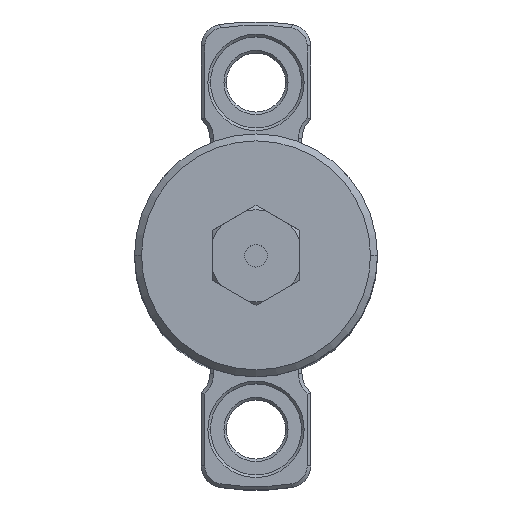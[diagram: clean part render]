
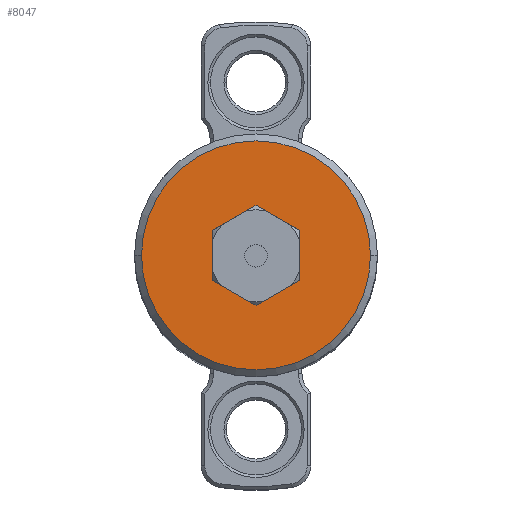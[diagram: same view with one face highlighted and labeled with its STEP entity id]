
A CAD part, top view. The second image highlights one B-rep face of the part: STEP entity #8047.
In plain terms, the highlighted planar face has unit normal (0, 0, 1).
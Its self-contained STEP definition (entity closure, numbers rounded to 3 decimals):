
#1037 = CARTESIAN_POINT ( 'NONE',  ( 5., -2.887, 0. ) ) ;
#1310 = AXIS2_PLACEMENT_3D ( 'NONE', #5973, #15376, #7317 ) ;
#1353 = DIRECTION ( 'NONE',  ( 0., 0., -1. ) ) ;
#1804 = VERTEX_POINT ( 'NONE', #16875 ) ;
#1861 = LINE ( 'NONE', #13121, #8986 ) ;
#1978 = DIRECTION ( 'NONE',  ( -0.866, 0.5, 0. ) ) ;
#2383 = CARTESIAN_POINT ( 'NONE',  ( 13.2, 0., 0. ) ) ;
#2625 = VECTOR ( 'NONE', #1978, 1000. ) ;
#3003 = CARTESIAN_POINT ( 'NONE',  ( 0., 5.774, 0. ) ) ;
#3013 = EDGE_CURVE ( 'NONE', #1804, #4803, #1861, .T. ) ;
#3384 = AXIS2_PLACEMENT_3D ( 'NONE', #16077, #1353, #10734 ) ;
#3965 = VECTOR ( 'NONE', #17085, 1000. ) ;
#4024 = EDGE_CURVE ( 'NONE', #4803, #16775, #7290, .T. ) ;
#4343 = EDGE_LOOP ( 'NONE', ( #9000, #9861 ) ) ;
#4353 = LINE ( 'NONE', #8233, #11071 ) ;
#4689 = ORIENTED_EDGE ( 'NONE', *, *, #13287, .F. ) ;
#4803 = VERTEX_POINT ( 'NONE', #15921 ) ;
#5278 = DIRECTION ( 'NONE',  ( 0., 1., 0. ) ) ;
#5393 = VERTEX_POINT ( 'NONE', #14424 ) ;
#5550 = CARTESIAN_POINT ( 'NONE',  ( 0., 0., 0. ) ) ;
#5640 = ORIENTED_EDGE ( 'NONE', *, *, #3013, .F. ) ;
#5967 = LINE ( 'NONE', #7978, #9125 ) ;
#5973 = CARTESIAN_POINT ( 'NONE',  ( 0., 0., 0. ) ) ;
#6448 = ORIENTED_EDGE ( 'NONE', *, *, #11387, .F. ) ;
#6535 = CIRCLE ( 'NONE', #7467, 13.2 ) ;
#6880 = VECTOR ( 'NONE', #7262, 1000. ) ;
#6892 = DIRECTION ( 'NONE',  ( 1., 0., 0. ) ) ;
#7262 = DIRECTION ( 'NONE',  ( 0.866, 0.5, 0. ) ) ;
#7290 = LINE ( 'NONE', #12637, #6880 ) ;
#7317 = DIRECTION ( 'NONE',  ( 1., 0., 0. ) ) ;
#7460 = VERTEX_POINT ( 'NONE', #3003 ) ;
#7467 = AXIS2_PLACEMENT_3D ( 'NONE', #5550, #14948, #6892 ) ;
#7503 = LINE ( 'NONE', #9037, #3965 ) ;
#7507 = ORIENTED_EDGE ( 'NONE', *, *, #4024, .F. ) ;
#7978 = CARTESIAN_POINT ( 'NONE',  ( 5., -2.887, 0. ) ) ;
#8020 = EDGE_CURVE ( 'NONE', #16775, #14287, #5967, .T. ) ;
#8047 = ADVANCED_FACE ( 'NONE', ( #9551, #12278 ), #17383, .F. ) ;
#8233 = CARTESIAN_POINT ( 'NONE',  ( 0., 5.774, 0. ) ) ;
#8725 = ORIENTED_EDGE ( 'NONE', *, *, #14039, .F. ) ;
#8986 = VECTOR ( 'NONE', #15716, 1000. ) ;
#9000 = ORIENTED_EDGE ( 'NONE', *, *, #16900, .T. ) ;
#9037 = CARTESIAN_POINT ( 'NONE',  ( -5., 2.887, 0. ) ) ;
#9125 = VECTOR ( 'NONE', #5278, 1000. ) ;
#9308 = CIRCLE ( 'NONE', #1310, 13.2 ) ;
#9551 = FACE_BOUND ( 'NONE', #12087, .T. ) ;
#9861 = ORIENTED_EDGE ( 'NONE', *, *, #15798, .T. ) ;
#10734 = DIRECTION ( 'NONE',  ( -1., 0., 0. ) ) ;
#11071 = VECTOR ( 'NONE', #14936, 1000. ) ;
#11136 = VERTEX_POINT ( 'NONE', #12888 ) ;
#11387 = EDGE_CURVE ( 'NONE', #7460, #5393, #4353, .T. ) ;
#12087 = EDGE_LOOP ( 'NONE', ( #6448, #4689, #16661, #7507, #5640, #8725 ) ) ;
#12211 = CARTESIAN_POINT ( 'NONE',  ( 5., 2.887, 0. ) ) ;
#12278 = FACE_OUTER_BOUND ( 'NONE', #4343, .T. ) ;
#12637 = CARTESIAN_POINT ( 'NONE',  ( 0., -5.774, 0. ) ) ;
#12715 = CARTESIAN_POINT ( 'NONE',  ( 5., 2.887, 0. ) ) ;
#12888 = CARTESIAN_POINT ( 'NONE',  ( -13.2, 0., 0. ) ) ;
#13121 = CARTESIAN_POINT ( 'NONE',  ( -5., -2.887, 0. ) ) ;
#13287 = EDGE_CURVE ( 'NONE', #14287, #7460, #13324, .T. ) ;
#13324 = LINE ( 'NONE', #12715, #2625 ) ;
#14039 = EDGE_CURVE ( 'NONE', #5393, #1804, #7503, .T. ) ;
#14287 = VERTEX_POINT ( 'NONE', #12211 ) ;
#14424 = CARTESIAN_POINT ( 'NONE',  ( -5., 2.887, 0. ) ) ;
#14936 = DIRECTION ( 'NONE',  ( -0.866, -0.5, 0. ) ) ;
#14948 = DIRECTION ( 'NONE',  ( 0., 0., 1. ) ) ;
#15119 = VERTEX_POINT ( 'NONE', #2383 ) ;
#15376 = DIRECTION ( 'NONE',  ( 0., 0., 1. ) ) ;
#15716 = DIRECTION ( 'NONE',  ( 0.866, -0.5, 0. ) ) ;
#15798 = EDGE_CURVE ( 'NONE', #15119, #11136, #9308, .T. ) ;
#15921 = CARTESIAN_POINT ( 'NONE',  ( 0., -5.774, 0. ) ) ;
#16077 = CARTESIAN_POINT ( 'NONE',  ( 0., 13.2, 0. ) ) ;
#16661 = ORIENTED_EDGE ( 'NONE', *, *, #8020, .F. ) ;
#16775 = VERTEX_POINT ( 'NONE', #1037 ) ;
#16875 = CARTESIAN_POINT ( 'NONE',  ( -5., -2.887, 0. ) ) ;
#16900 = EDGE_CURVE ( 'NONE', #11136, #15119, #6535, .T. ) ;
#17085 = DIRECTION ( 'NONE',  ( 0., -1., 0. ) ) ;
#17383 = PLANE ( 'NONE',  #3384 ) ;
